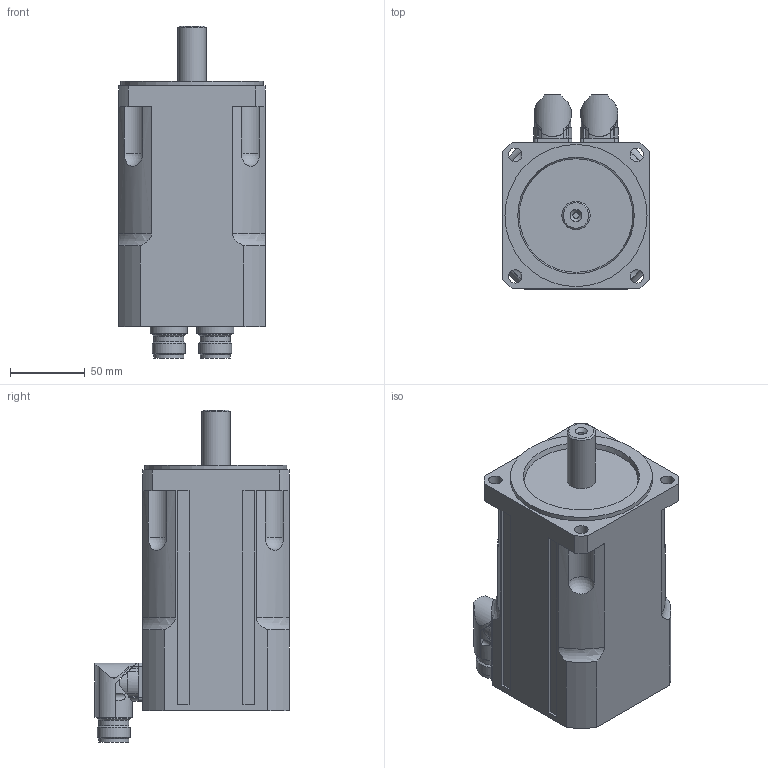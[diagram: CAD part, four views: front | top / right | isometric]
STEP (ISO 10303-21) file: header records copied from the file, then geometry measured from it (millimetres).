
FILE_DESCRIPTION((''),'2;1');
FILE_NAME('V:\katalog\3D_modely\T\Ruzne\STEP\T4000 00 Z_0390.stp','2011-03-29T13:23:32',('oslejsek'),(''),'Autodesk Inventor 10','Autodesk Inventor 10','');
FILE_SCHEMA(('AUTOMOTIVE_DESIGN { 1 0 10303 214 1 1 1 1 }'));
Length unit declared in the file: millimetre
Products named in the file (3): T4000 00 Z_0390; T4000 00_0390; Konektor zahnuty neotocny
Assembly tree (3 placements, depth 2):
  T4000 00 Z_0390
    T4000 00_0390
    Konektor zahnuty neotocny  x2
Bounding box: 98 x 130 x 222 mm (x, y, z)
Volume: 1492763.5 mm3; surface area: 102299.5 mm2
Topology: 3 solids, 3 shells, 208 faces, 559 edges, 371 vertices
Faces by surface type: cylinder 104, plane 66, bspline 22, cone 8, sphere 4, torus 4
Full cylindrical faces by diameter (mm): 2.7 x8, 19 x1, 20 x6, 22 x4, 95 x1
Entity records: 5224 total; most frequent: CARTESIAN_POINT 1738, DIRECTION 713, ORIENTED_EDGE 684, EDGE_CURVE 342, AXIS2_PLACEMENT_3D 277, VERTEX_POINT 242, EDGE_LOOP 192, VECTOR 159
